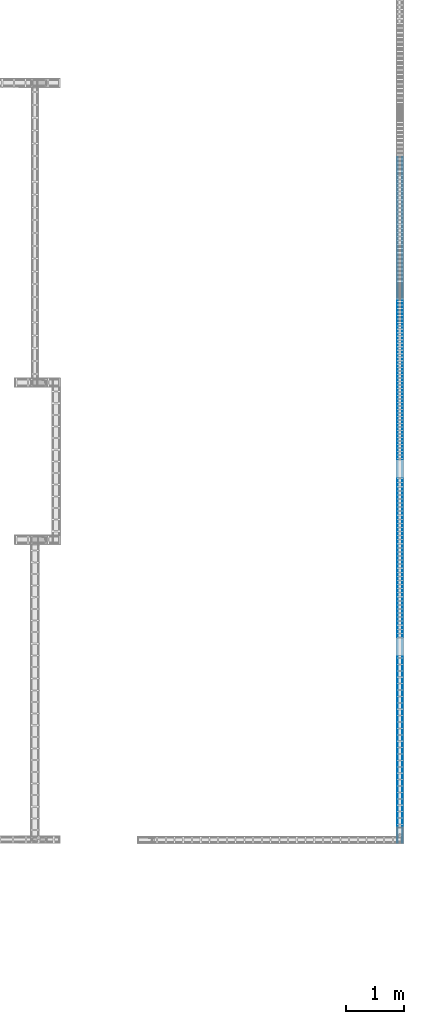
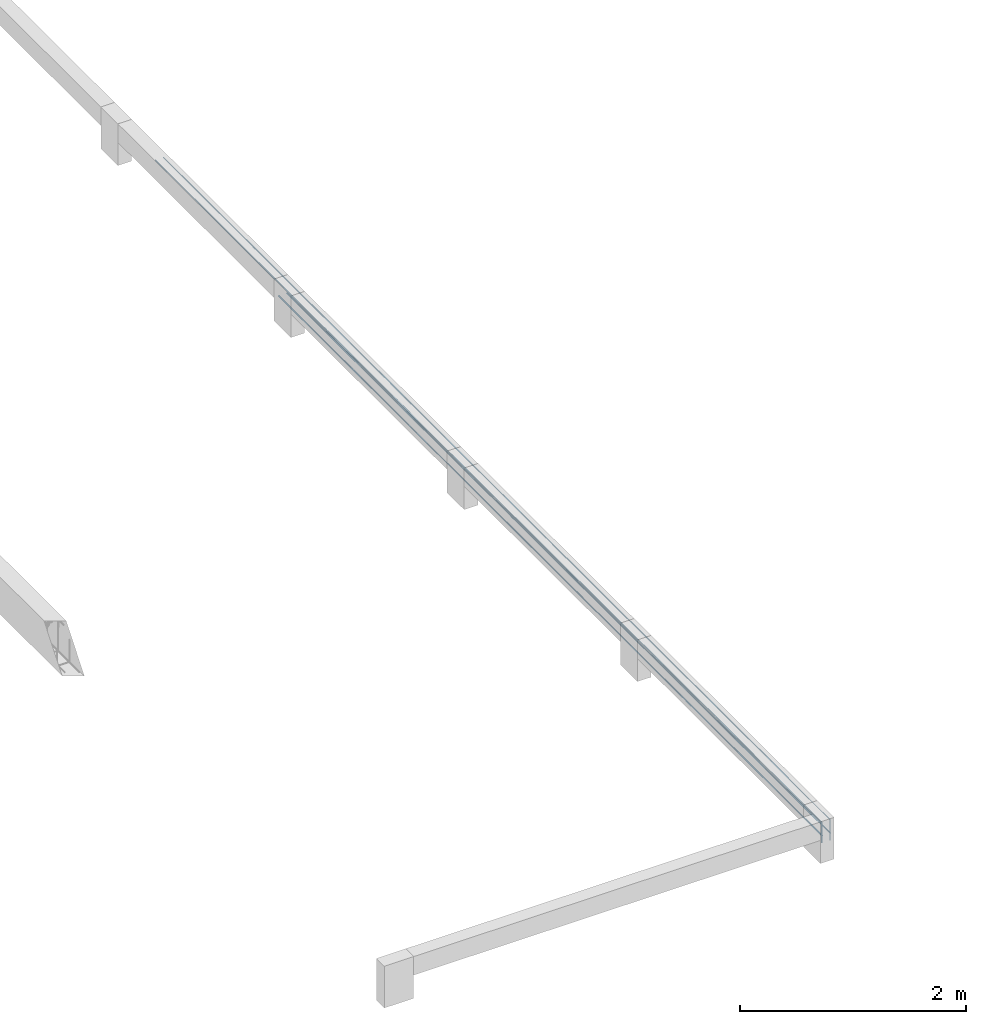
# One storey, part 110 of 236: 4 reinforcing bars.
"""IFC4 building model written with IfcOpenShell, lengths in centimetres."""

from ifc_helpers import new_model, entity, si_unit, derived_unit, frame, origin_with_axes, place, context, project, spatial, element, save


model = new_model("IFC4")

# Units and contexts
model_context = context("Model", 3, precision=1e-05, world=origin_with_axes(), identifier="Body")
ifc_project = project(units=[si_unit("LENGTHUNIT", "METRE", prefix="CENTI"), si_unit("VOLUMEUNIT", "CUBIC_METRE"), si_unit("AREAUNIT", "SQUARE_METRE"), si_unit("POWERUNIT", "WATT"), si_unit("LUMINOUSFLUXUNIT", "LUMEN"), si_unit("ELECTRICCURRENTUNIT", "AMPERE"), si_unit("PRESSUREUNIT", "PASCAL", prefix="KILO"), si_unit("MASSUNIT", "GRAM", prefix="KILO"), si_unit("PLANEANGLEUNIT", "RADIAN"), derived_unit("VOLUMETRICFLOWRATEUNIT", [(si_unit("LENGTHUNIT", "METRE"), 3), (si_unit("TIMEUNIT", "SECOND"), -1)])], contexts=[model_context])

# Site, building, storey
site_placement = place(None, frame((-4000.0, 0.0, 0.0), z_axis=(0.0, 0.0, 1.0), x_axis=(1.0, 0.0, 0.0)))
site = spatial("IfcSite", under=ifc_project, at=site_placement, Name="PADRÃO")
building_placement = place(site_placement, frame((0.0, 0.0, -14.0)))
building = spatial("IfcBuilding", under=site, at=building_placement, Name="CRECHE PRÉ-ESCOLA TIPO 2")
placement_1 = place(building_placement, origin_with_axes())
placement_2 = place(placement_1, frame((0.0, 0.0, 30.0), z_axis=(0.0, 0.0, 1.0), x_axis=(1.0, 0.0, 0.0)))
storey_placement = place(placement_2, frame((0.0, 0.0, 310.0), z_axis=(0.0, 0.0, 1.0), x_axis=(1.0, 0.0, 0.0)))
storey = spatial("IfcBuildingStorey", under=building, at=storey_placement, Name="TERREO", CompositionType="ELEMENT", Elevation=326.0)

# Reinforcing bars
for number, where, z_axis, x_axis, name in (
    (1, (3997.1, 989.652920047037, -281.7), (0.0, 0.0, 1.0), (1.0, 0.0, 0.0), "V331 - Longitudinal inferior"),
    (2, (3988.9, 989.652920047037, -281.7), (0.0, 0.0, 1.0), (1.0, 0.0, 0.0), "V331 - Longitudinal inferior"),
):
    element("IfcReinforcingBar", number, at=place(storey_placement, frame(where, z_axis=z_axis, x_axis=x_axis)), inside=storey, Name=name, BarLength=0.0, CrossSectionArea=5.0265482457e-05, NominalDiameter=0.8, PredefinedType="MAIN", context=model_context, shape_type="AdvancedSweptSolid", body=[
        entity("IfcSweptDiskSolid", entity("IfcCompositeCurve", [entity("IfcCompositeCurveSegment", "CONTINUOUS", True, entity("IfcPolyline", [entity("IfcCartesianPoint", [0.0, -480.142920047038, -0.4]), entity("IfcCartesianPoint", [0.0, 480.142920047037, -0.4])]))], False), 0.4),
    ])
for number, where, z_axis, x_axis, name in (
    (3, (3997.1, 1098.56085388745, -267.496249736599), (0.0, 0.0, 1.0), (1.0, 0.0, 0.0), "V331 - Longitudinal superior"),
    (4, (3988.9, 1098.56085388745, -267.496249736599), (0.0, 0.0, 1.0), (1.0, 0.0, 0.0), "V331 - Longitudinal superior"),
):
    element("IfcReinforcingBar", number, at=place(storey_placement, frame(where, z_axis=z_axis, x_axis=x_axis)), inside=storey, Name=name, BarLength=0.0, CrossSectionArea=5.0265482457e-05, NominalDiameter=0.8, PredefinedType="MAIN", context=model_context, shape_type="AdvancedSweptSolid", body=[
        entity("IfcSweptDiskSolid", entity("IfcCompositeCurve", [entity("IfcCompositeCurveSegment", "CONTINUOUS", True, entity("IfcPolyline", [entity("IfcCartesianPoint", [0.0, -588.650853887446, -22.2982922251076]), entity("IfcCartesianPoint", [0.0, -588.650853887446, -0.403750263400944])])), entity("IfcCompositeCurveSegment", "CONTINUOUS", True, entity("IfcPolyline", [entity("IfcCartesianPoint", [0.0, -588.650853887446, -0.403750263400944]), entity("IfcCartesianPoint", [0.0, 589.054604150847, -0.403750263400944])]))], False), 0.4),
    ])

save(model, "model.ifc")
